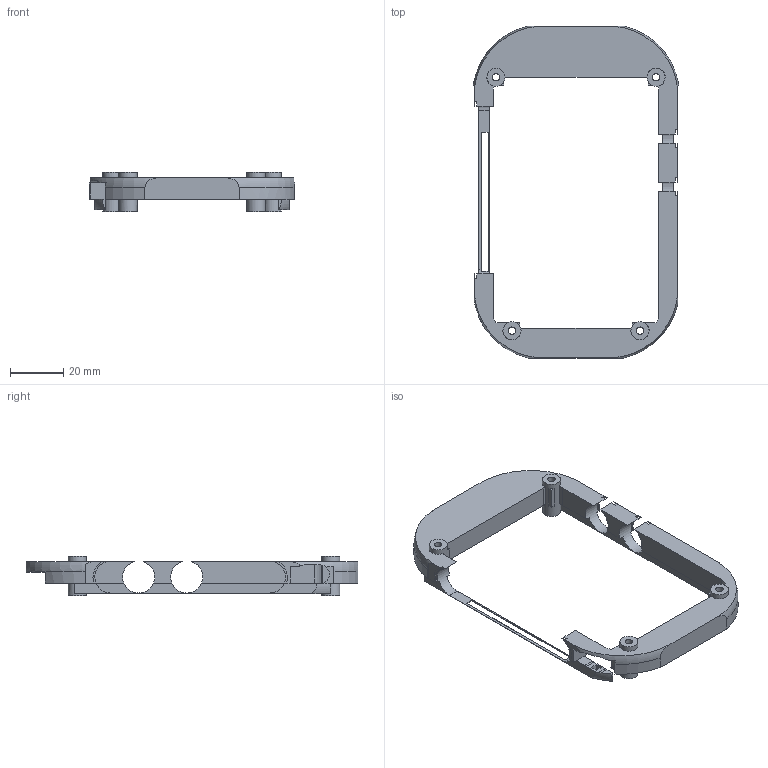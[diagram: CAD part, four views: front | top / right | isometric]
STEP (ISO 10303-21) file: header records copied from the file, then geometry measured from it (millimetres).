
FILE_DESCRIPTION(('Open CASCADE Model'),'2;1');
FILE_NAME('Open CASCADE Shape Model','2026-09-08T11:14:51',('Author'),( 'Open CASCADE'),'Open CASCADE STEP processor 7.7','Open CASCADE 7.7' ,'Unknown');
FILE_SCHEMA(('AUTOMOTIVE_DESIGN { 1 0 10303 214 1 1 1 1 }'));
Length unit declared in the file: millimetre
Products named in the file (1): Open CASCADE STEP translator 7.7 3
Bounding box: 77 x 124.4 x 14.7 mm (x, y, z)
Volume: 18593.4 mm3; surface area: 12155.5 mm2
Topology: 1 solids, 1 shells, 143 faces, 420 edges, 279 vertices
Faces by surface type: plane 97, cylinder 40, torus 6
Full cylindrical faces by diameter (mm): 2.8 x4, 6.8 x4
Entity records: 11058 total; most frequent: CARTESIAN_POINT 3311, DIRECTION 1286, ORIENTED_EDGE 840, PCURVE 840, DEFINITIONAL_REPRESENTATION 840, LINE 657, VECTOR 657, EDGE_CURVE 420
